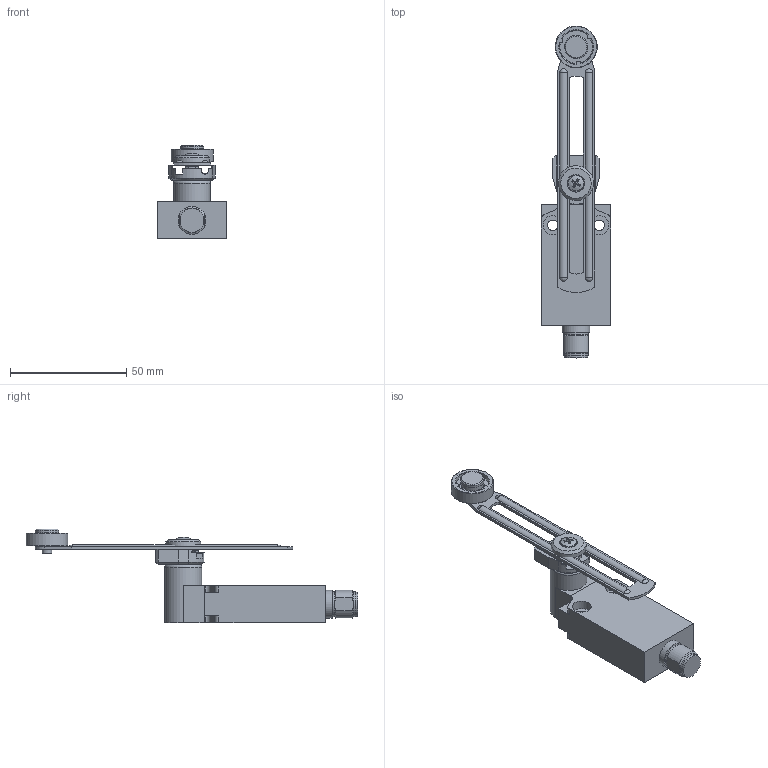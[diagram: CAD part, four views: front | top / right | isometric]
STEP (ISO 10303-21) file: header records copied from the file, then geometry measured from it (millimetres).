
FILE_DESCRIPTION(/* description */ (''),/* implementation_level */ '2;1');
FILE_NAME(/* name */ 'C:\Users\servizio.tecnico\Desktop\BERNSTEIN\3D\STP_EM1_G5140MC.stp',/* time_stamp */ '2020-06-26T11:21:53+02:00',/* author */ ('servizio.tecnico'),/* organization */ (''),/* preprocessor_version */ 'ST-DEVELOPER v17',/* originating_system */ 'Autodesk Inventor 2019',/* authorisation */ '');
FILE_SCHEMA (('AUTOMOTIVE_DESIGN { 1 0 10303 214 3 1 1 }'));
Length unit declared in the file: millimetre
Products named in the file (13): STP_EM1_G41M; EM1G41-M; Product; g5120; vi2617pe; to2037pe_2; pl2035pi_2; tr2044pi; to2045pe; pl2049pi_2; fu 4120; MC; Product_1
Assembly tree (12 placements, depth 3):
  STP_EM1_G41M
    EM1G41-M
      Product
    g5120
      vi2617pe
      to2037pe_2
      pl2035pi_2
      tr2044pi
      to2045pe
      pl2049pi_2
      fu 4120
    MC
      Product_1
Bounding box: 30 x 142.51 x 40.3 mm (x, y, z)
Volume: 34512.3 mm3; surface area: 15954.3 mm2
Topology: 9 solids, 9 shells, 400 faces, 1094 edges, 727 vertices
Faces by surface type: plane 192, cylinder 159, torus 21, cone 16, sphere 9, bspline 3
Full cylindrical faces by diameter (mm): 2.5 x1, 3.5 x22, 4 x1, 4.1 x2, 4.4 x2, 5 x1, 5.7 x1, 6 x1, 6.1 x1, 7 x1, 7.6 x1, 8.2 x4, 10 x1, 10.3 x1, 10.6 x2, 12 x1, 15 x1, 15.8 x1, 18 x1
Entity records: 16425 total; most frequent: CARTESIAN_POINT 5501, DIRECTION 2254, ORIENTED_EDGE 2166, EDGE_CURVE 1083, AXIS2_PLACEMENT_3D 828, VERTEX_POINT 725, LINE 598, VECTOR 598
